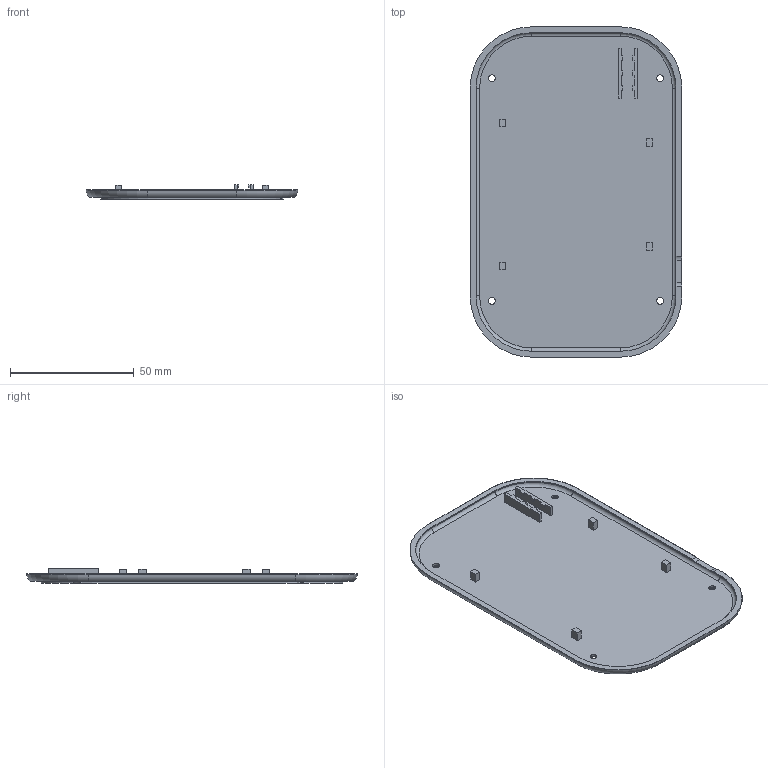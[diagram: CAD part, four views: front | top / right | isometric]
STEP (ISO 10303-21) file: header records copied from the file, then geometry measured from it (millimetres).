
FILE_DESCRIPTION(('Open CASCADE Model'),'2;1');
FILE_NAME('Open CASCADE Shape Model','2026-09-09T11:50:13',('Author'),( 'Open CASCADE'),'Open CASCADE STEP processor 7.7','Open CASCADE 7.7' ,'Unknown');
FILE_SCHEMA(('AUTOMOTIVE_DESIGN { 1 0 10303 214 1 1 1 1 }'));
Length unit declared in the file: millimetre
Products named in the file (1): Open CASCADE STEP translator 7.7 2
Bounding box: 85.6 x 133.6 x 6 mm (x, y, z)
Volume: 21578 mm3; surface area: 23931.7 mm2
Topology: 1 solids, 1 shells, 112 faces, 301 edges, 194 vertices
Faces by surface type: plane 72, cylinder 28, torus 8, cone 4
Full cylindrical faces by diameter (mm): 2.8 x4
Entity records: 7630 total; most frequent: CARTESIAN_POINT 1693, DIRECTION 1074, LINE 663, VECTOR 663, ORIENTED_EDGE 602, PCURVE 602, DEFINITIONAL_REPRESENTATION 602, EDGE_CURVE 301
